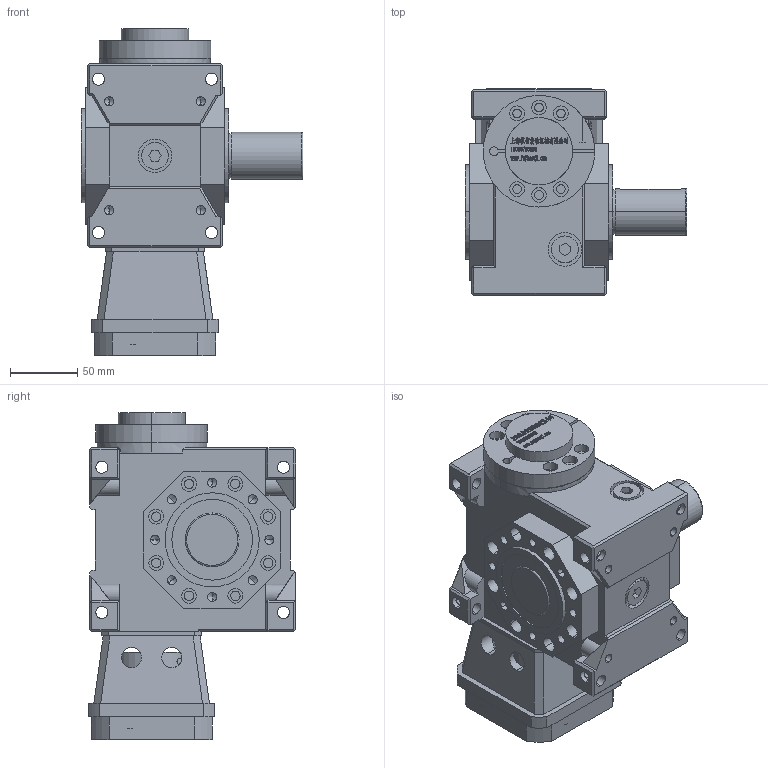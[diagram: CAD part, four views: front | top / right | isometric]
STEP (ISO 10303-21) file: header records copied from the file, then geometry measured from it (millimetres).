
FILE_DESCRIPTION (( 'STEP AP203' ), '1' );
FILE_NAME ('FXLB045-(5~90)-ASR-19-70-90-M6.step', '2022-11-06T03:42:50', ( '' ), ( '' ), 'SwSTEP 2.0', 'SolidWorks 2020', '' );
FILE_SCHEMA (( 'CONFIG_CONTROL_DESIGN' ));
Length unit declared in the file: millimetre
Products named in the file (8): ______BD56-60-19-15____.step; JDLB045-CR____.step; FXLB045-(5~90)-ASR-19-70-90-M6; ST90-70-90-M6____________.step; FXLB045-(5~90)-ASR-19-70-90-M6.step; JDLB050-ASR________35.step; JDLB045-ST94________.step; 錨璃133^FXLB045-(5~90)-ASR-19-70-90-M6
Assembly tree (7 placements, depth 3):
  FXLB045-(5~90)-ASR-19-70-90-M6
    FXLB045-(5~90)-ASR-19-70-90-M6.step
      JDLB045-CR____.step
      JDLB045-ST94________.step
      ST90-70-90-M6____________.step
      ______BD56-60-19-15____.step
      JDLB050-ASR________35.step
    錨璃133^FXLB045-(5~90)-ASR-19-70-90-M6
Bounding box: 165 x 154 x 243.2 mm (x, y, z)
Volume: 2283495.2 mm3; surface area: 315144.3 mm2
Topology: 82 solids, 82 shells, 2630 faces, 6944 edges, 4534 vertices
Faces by surface type: plane 1540, bspline 572, cylinder 416, cone 80, torus 22
Entity records: 109014 total; most frequent: CARTESIAN_POINT 46564, ORIENTED_EDGE 13760, DIRECTION 10689, EDGE_CURVE 6880, VECTOR 4739, LINE 4739, VERTEX_POINT 4534, AXIS2_PLACEMENT_3D 2975
